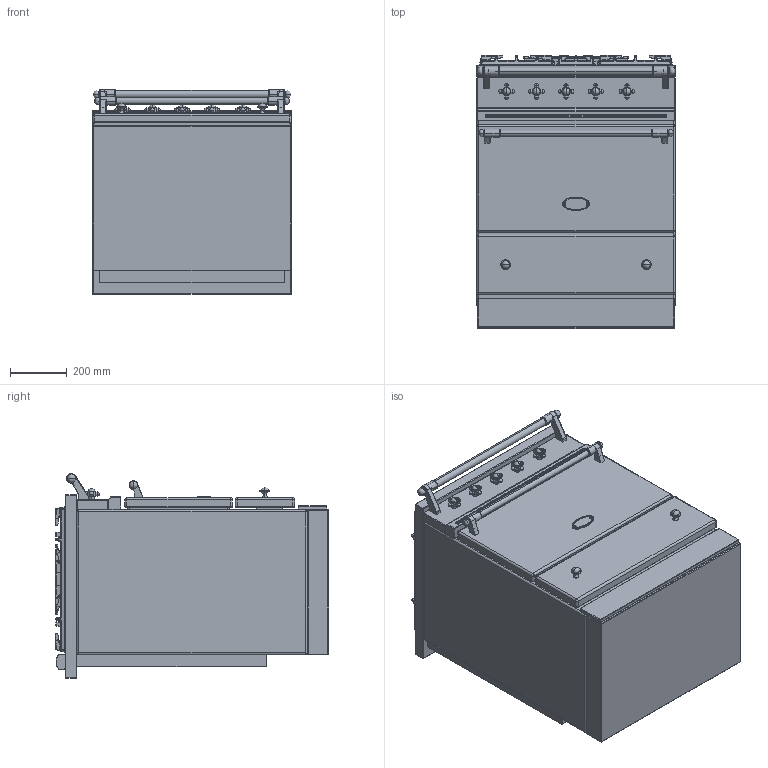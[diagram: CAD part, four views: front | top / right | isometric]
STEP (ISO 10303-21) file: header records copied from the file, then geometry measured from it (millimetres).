
FILE_DESCRIPTION((''),'2;1');
FILE_NAME('LG741_ASM','2021-12-01T16:25:15',('j.cheno'),(''),'CREO PARAMETRIC BY PTC INC, 2017260','CREO PARAMETRIC BY PTC INC, 2017260','');
FILE_SCHEMA(('AP203_CONFIGURATION_CONTROLLED_3D_DESIGN_OF_MECHANICAL_PARTS_AND_ASSEMBLIES_MIM_LF { 1 0 10303 403 2 1 2 }'));
Products named in the file (25): BASE_EXPORT_CORMATIN_4F; 65650003; 65650004; 6531940; 6531941; 6538399; 1931942; 65080022_AF0; 6531942_ASM; 6531943; 65049009; 65650001; BASE_EXPORT_CORMATIN_4F_ASM; TABLE_700_CLASSIQUE_4F; 3KW; 1_5KW; 4KW; 6537026; 65149005; 90000566_ASM; 6537023; 90000565_ASM; CHEMINEE_2020_LG371_EXPORT_STEP; TABLE_700_CLASSIQUE_4F_ASM; LG741_ASM
Assembly tree (38 placements, depth 4):
  LG741_ASM
    BASE_EXPORT_CORMATIN_4F_ASM
      BASE_EXPORT_CORMATIN_4F
      65650003
      65650004
      6531940
      6531941
      6531942_ASM  x5
        6538399
        1931942
        65080022_AF0
      6531943  x2
      65049009
      65650001
    TABLE_700_CLASSIQUE_4F_ASM
      TABLE_700_CLASSIQUE_4F
      3KW  x2
      1_5KW
      4KW
      90000566_ASM
        6537026
        65149005  x4
      90000565_ASM  x2
        6537023
        65149005
      CHEMINEE_2020_LG371_EXPORT_STEP
Bounding box: 700 x 965 x 724 mm (x, y, z)
Volume: 372312684.2 mm3; surface area: 6527307.3 mm2
Topology: 51 solids, 57 shells, 5771 faces, 14433 edges, 8736 vertices
Faces by surface type: plane 2125, cylinder 1754, bspline 1026, cone 290, torus 197, sphere 189, extrusion 182, revolution 8
Entity records: 153680 total; most frequent: CARTESIAN_POINT 52658, ORIENTED_EDGE 16838, DIRECTION 14971, EDGE_CURVE 8429, PRESENTATION_STYLE_ASSIGNMENT 5323, STYLED_ITEM 5300, AXIS2_PLACEMENT_3D 5221, CURVE_STYLE 5154
